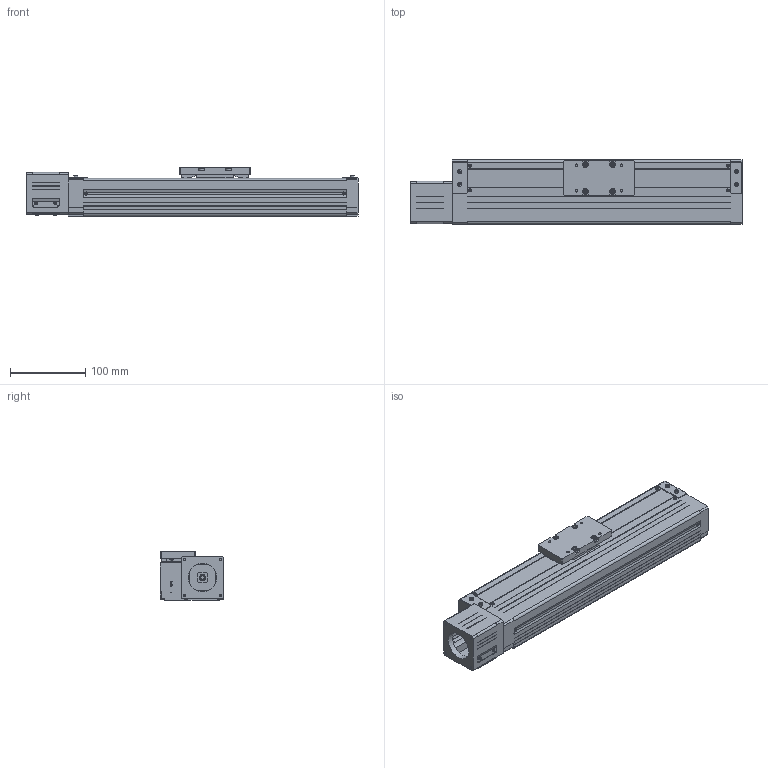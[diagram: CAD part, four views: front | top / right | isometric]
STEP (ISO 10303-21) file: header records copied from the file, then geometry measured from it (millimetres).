
FILE_DESCRIPTION((''),'2;1');
FILE_NAME('D:\製品 (図面)\カタログ用3D\SU部品\SU85×65\ダウンロード用\SU85×65-MB56\SU85×65-250-MB56.stp','2011-07-01T17:20:01',('Tsuchiya'),(''),'Autodesk Inventor 10','Autodesk Inventor 10','');
FILE_SCHEMA(('AUTOMOTIVE_DESIGN { 1 0 10303 214 1 1 1 1 }'));
Length unit declared in the file: millimetre
Products named in the file (3): SU85×65-250-MB56; SU85×65-250-MB561; SU85×65-250-MB562
Assembly tree (2 placements, depth 2):
  SU85×65-250-MB56
    SU85×65-250-MB561
    SU85×65-250-MB562
Bounding box: 441 x 85 x 65 mm (x, y, z)
Volume: 872404.9 mm3; surface area: 284729.8 mm2
Topology: 8 solids, 8 shells, 843 faces, 2216 edges, 1434 vertices
Faces by surface type: plane 713, cylinder 98, cone 16, torus 12, bspline 4
Full cylindrical faces by diameter (mm): 3.242 x8, 4 x4, 4.134 x8, 4.5 x4, 5.5 x4, 6 x1, 7 x4, 8 x1, 11.5 x1, 12 x1, 13 x1, 38.1 x1, 43 x1
Entity records: 25742 total; most frequent: CARTESIAN_POINT 5175, ORIENTED_EDGE 4232, DIRECTION 4032, EDGE_CURVE 2116, VECTOR 1712, LINE 1712, VERTEX_POINT 1405, AXIS2_PLACEMENT_3D 1160
